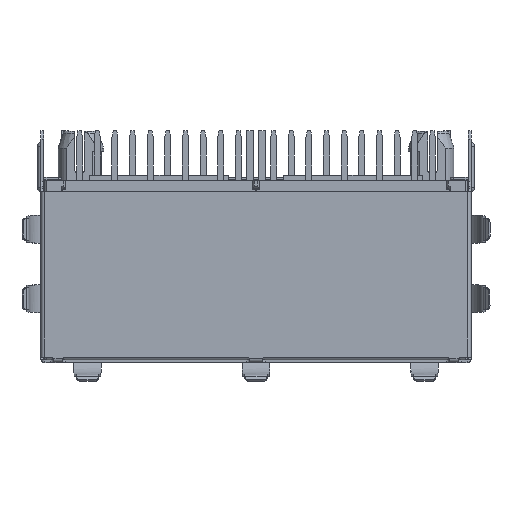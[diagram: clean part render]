
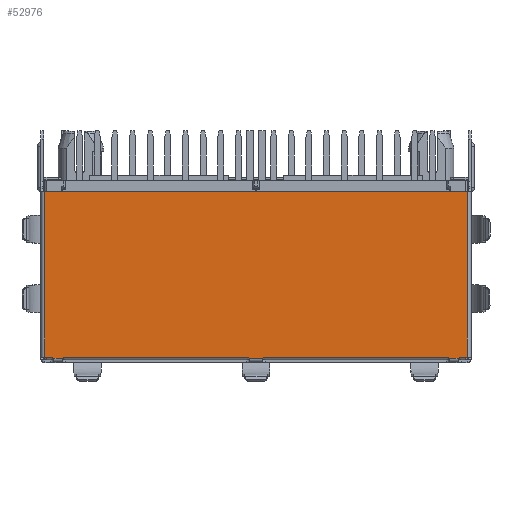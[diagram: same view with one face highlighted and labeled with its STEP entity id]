
A CAD part, front view. The second image highlights one B-rep face of the part: STEP entity #52976.
In plain terms, the highlighted planar face has unit normal (0, -1, 0).
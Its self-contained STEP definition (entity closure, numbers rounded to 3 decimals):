
#8641=DIRECTION('',(1.,0.,0.));
#8642=VECTOR('',#8641,0.4);
#8643=CARTESIAN_POINT('',(-0.05,-0.2,-16.25));
#8644=LINE('',#8643,#8642);
#8783=DIRECTION('',(0.,0.,-1.));
#8784=VECTOR('',#8783,11.9);
#8785=CARTESIAN_POINT('',(-0.05,-0.2,-4.35));
#8786=LINE('',#8785,#8784);
#8787=DIRECTION('',(1.,0.,0.));
#8788=VECTOR('',#8787,30.4);
#8789=CARTESIAN_POINT('',(-0.05,-0.2,-4.35));
#8790=LINE('',#8789,#8788);
#8791=CARTESIAN_POINT('',(29.95,-0.2,-16.45));
#8792=DIRECTION('',(0.,-1.,0.));
#8793=DIRECTION('',(0.,0.,1.));
#8794=AXIS2_PLACEMENT_3D('',#8791,#8792,#8793);
#8796=DIRECTION('',(-1.,0.,0.));
#8797=VECTOR('',#8796,0.754);
#8798=CARTESIAN_POINT('',(29.777,-0.2,-16.35));
#8799=LINE('',#8798,#8797);
#8800=CARTESIAN_POINT('',(28.85,-0.2,-16.45));
#8801=DIRECTION('',(0.,-1.,0.));
#8802=DIRECTION('',(0.866,0.,0.5));
#8803=AXIS2_PLACEMENT_3D('',#8800,#8801,#8802);
#8805=CARTESIAN_POINT('',(15.8,-0.2,-16.45));
#8806=DIRECTION('',(0.,-1.,0.));
#8807=DIRECTION('',(0.,0.,1.));
#8808=AXIS2_PLACEMENT_3D('',#8805,#8806,#8807);
#8810=DIRECTION('',(-1.,0.,0.));
#8811=VECTOR('',#8810,0.954);
#8812=CARTESIAN_POINT('',(15.627,-0.2,-16.35));
#8813=LINE('',#8812,#8811);
#8814=CARTESIAN_POINT('',(14.5,-0.2,-16.45));
#8815=DIRECTION('',(0.,-1.,0.));
#8816=DIRECTION('',(0.866,0.,0.5));
#8817=AXIS2_PLACEMENT_3D('',#8814,#8815,#8816);
#8819=CARTESIAN_POINT('',(1.45,-0.2,-16.45));
#8820=DIRECTION('',(0.,-1.,0.));
#8821=DIRECTION('',(0.,0.,1.));
#8822=AXIS2_PLACEMENT_3D('',#8819,#8820,#8821);
#8824=DIRECTION('',(-1.,0.,0.));
#8825=VECTOR('',#8824,0.754);
#8826=CARTESIAN_POINT('',(1.277,-0.2,-16.35));
#8827=LINE('',#8826,#8825);
#8828=CARTESIAN_POINT('',(0.35,-0.2,-16.45));
#8829=DIRECTION('',(0.,-1.,0.));
#8830=DIRECTION('',(0.866,0.,0.5));
#8831=AXIS2_PLACEMENT_3D('',#8828,#8829,#8830);
#8833=DIRECTION('',(0.,0.,1.));
#8834=VECTOR('',#8833,11.9);
#8835=CARTESIAN_POINT('',(30.35,-0.2,-16.25));
#8836=LINE('',#8835,#8834);
#8841=DIRECTION('',(1.,0.,0.));
#8842=VECTOR('',#8841,0.4);
#8843=CARTESIAN_POINT('',(29.95,-0.2,-16.25));
#8844=LINE('',#8843,#8842);
#8931=DIRECTION('',(1.,0.,0.));
#8932=VECTOR('',#8931,13.05);
#8933=CARTESIAN_POINT('',(15.8,-0.2,-16.25));
#8934=LINE('',#8933,#8932);
#9011=DIRECTION('',(1.,0.,0.));
#9012=VECTOR('',#9011,13.05);
#9013=CARTESIAN_POINT('',(1.45,-0.2,-16.25));
#9014=LINE('',#9013,#9012);
#31617=CARTESIAN_POINT('',(29.777,-0.2,-16.35));
#31618=CARTESIAN_POINT('',(29.023,-0.2,-16.35));
#31619=VERTEX_POINT('',#31617);
#31620=VERTEX_POINT('',#31618);
#31623=CARTESIAN_POINT('',(15.627,-0.2,-16.35));
#31624=CARTESIAN_POINT('',(14.673,-0.2,-16.35));
#31625=VERTEX_POINT('',#31623);
#31626=VERTEX_POINT('',#31624);
#33151=CARTESIAN_POINT('',(30.35,-0.2,-4.35));
#33153=VERTEX_POINT('',#33151);
#33154=CARTESIAN_POINT('',(29.95,-0.2,-16.25));
#33155=VERTEX_POINT('',#33154);
#33156=CARTESIAN_POINT('',(28.85,-0.2,-16.25));
#33157=VERTEX_POINT('',#33156);
#33158=CARTESIAN_POINT('',(15.8,-0.2,-16.25));
#33159=VERTEX_POINT('',#33158);
#33160=CARTESIAN_POINT('',(14.5,-0.2,-16.25));
#33161=VERTEX_POINT('',#33160);
#33162=CARTESIAN_POINT('',(1.45,-0.2,-16.25));
#33163=CARTESIAN_POINT('',(1.277,-0.2,-16.35));
#33164=VERTEX_POINT('',#33162);
#33165=VERTEX_POINT('',#33163);
#33166=CARTESIAN_POINT('',(0.523,-0.2,-16.35));
#33167=VERTEX_POINT('',#33166);
#33168=CARTESIAN_POINT('',(0.35,-0.2,-16.25));
#33169=VERTEX_POINT('',#33168);
#33170=CARTESIAN_POINT('',(-0.05,-0.2,-4.35));
#33172=VERTEX_POINT('',#33170);
#33180=CARTESIAN_POINT('',(-0.05,-0.2,-16.25));
#33181=VERTEX_POINT('',#33180);
#33245=CARTESIAN_POINT('',(30.35,-0.2,-16.25));
#33246=VERTEX_POINT('',#33245);
#52941=CARTESIAN_POINT('',(15.15,-0.2,-8.16));
#52942=DIRECTION('',(0.,1.,0.));
#52943=DIRECTION('',(1.,0.,0.));
#52944=AXIS2_PLACEMENT_3D('',#52941,#52942,#52943);
#52945=PLANE('',#52944);
#52946=ORIENTED_EDGE('',*,*,#41678,.T.);
#52948=ORIENTED_EDGE('',*,*,#52947,.F.);
#52950=ORIENTED_EDGE('',*,*,#52949,.F.);
#52952=ORIENTED_EDGE('',*,*,#52951,.T.);
#52954=ORIENTED_EDGE('',*,*,#52953,.T.);
#52956=ORIENTED_EDGE('',*,*,#52955,.T.);
#52958=ORIENTED_EDGE('',*,*,#52957,.F.);
#52960=ORIENTED_EDGE('',*,*,#52959,.T.);
#52962=ORIENTED_EDGE('',*,*,#52961,.T.);
#52964=ORIENTED_EDGE('',*,*,#52963,.T.);
#52966=ORIENTED_EDGE('',*,*,#52965,.F.);
#52968=ORIENTED_EDGE('',*,*,#52967,.T.);
#52970=ORIENTED_EDGE('',*,*,#52969,.T.);
#52971=ORIENTED_EDGE('',*,*,#52738,.T.);
#52972=ORIENTED_EDGE('',*,*,#52766,.F.);
#52973=ORIENTED_EDGE('',*,*,#52936,.F.);
#52974=EDGE_LOOP('',(#52946,#52948,#52950,#52952,#52954,#52956,#52958,#52960,
#52962,#52964,#52966,#52968,#52970,#52971,#52972,#52973));
#52975=FACE_OUTER_BOUND('',#52974,.F.);
#8795=CIRCLE('',#8794,0.2);
#8804=CIRCLE('',#8803,0.2);
#8809=CIRCLE('',#8808,0.2);
#8818=CIRCLE('',#8817,0.2);
#8823=CIRCLE('',#8822,0.2);
#8832=CIRCLE('',#8831,0.2);
#41678=EDGE_CURVE('',#33172,#33153,#8790,.T.);
#52738=EDGE_CURVE('',#33167,#33169,#8832,.T.);
#52766=EDGE_CURVE('',#33181,#33169,#8644,.T.);
#52936=EDGE_CURVE('',#33172,#33181,#8786,.T.);
#52947=EDGE_CURVE('',#33246,#33153,#8836,.T.);
#52949=EDGE_CURVE('',#33155,#33246,#8844,.T.);
#52951=EDGE_CURVE('',#33155,#31619,#8795,.T.);
#52953=EDGE_CURVE('',#31619,#31620,#8799,.T.);
#52955=EDGE_CURVE('',#31620,#33157,#8804,.T.);
#52957=EDGE_CURVE('',#33159,#33157,#8934,.T.);
#52959=EDGE_CURVE('',#33159,#31625,#8809,.T.);
#52961=EDGE_CURVE('',#31625,#31626,#8813,.T.);
#52963=EDGE_CURVE('',#31626,#33161,#8818,.T.);
#52965=EDGE_CURVE('',#33164,#33161,#9014,.T.);
#52967=EDGE_CURVE('',#33164,#33165,#8823,.T.);
#52969=EDGE_CURVE('',#33165,#33167,#8827,.T.);
#52976=ADVANCED_FACE('',(#52975),#52945,.F.);
